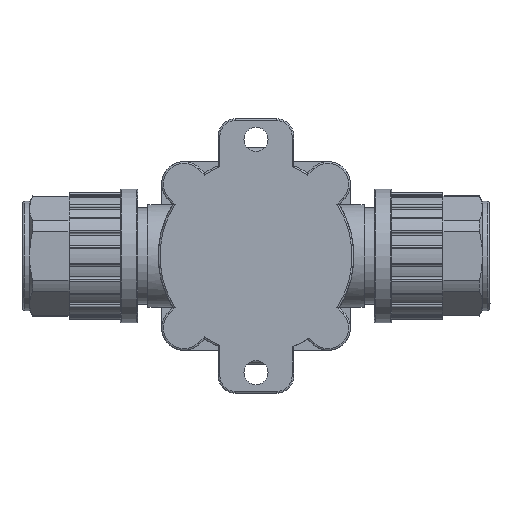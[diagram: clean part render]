
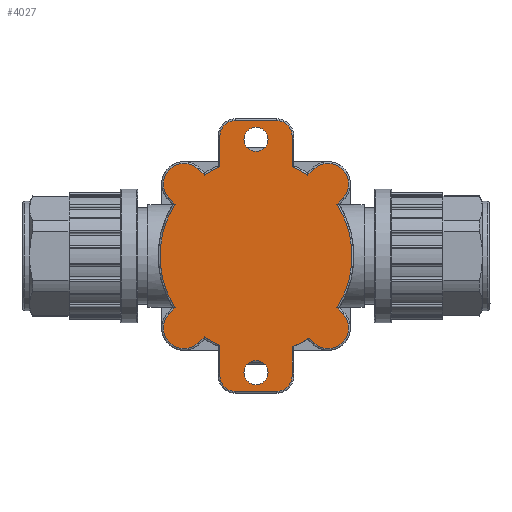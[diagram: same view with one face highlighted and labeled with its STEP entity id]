
A CAD part, front view. The second image highlights one B-rep face of the part: STEP entity #4027.
In plain terms, the highlighted planar face has unit normal (0, -1, 0).
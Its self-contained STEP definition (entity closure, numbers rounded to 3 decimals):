
#642=CIRCLE('',#14246,28.5);
#643=CIRCLE('',#14247,6.);
#644=CIRCLE('',#14248,28.);
#645=CIRCLE('',#14249,6.);
#646=CIRCLE('',#14250,28.);
#647=CIRCLE('',#14251,4.5);
#648=CIRCLE('',#14252,4.5);
#649=CIRCLE('',#14253,28.);
#650=CIRCLE('',#14254,6.);
#651=CIRCLE('',#14255,28.);
#652=CIRCLE('',#14256,6.);
#653=CIRCLE('',#14257,28.);
#654=CIRCLE('',#14258,4.5);
#655=CIRCLE('',#14259,4.5);
#656=CIRCLE('',#14260,3.5);
#657=CIRCLE('',#14261,3.5);
#1016=PLANE('',#14262);
#1420=FACE_BOUND('',#5772,.T.);
#1421=FACE_BOUND('',#5773,.T.);
#1422=FACE_BOUND('',#5774,.T.);
#1879=LINE('',#21078,#2999);
#1880=LINE('',#21082,#3000);
#1881=LINE('',#21086,#3001);
#1882=LINE('',#21090,#3002);
#1883=LINE('',#21094,#3003);
#1884=LINE('',#21098,#3004);
#1885=LINE('',#21102,#3005);
#1886=LINE('',#21106,#3006);
#1887=LINE('',#21110,#3007);
#1888=LINE('',#21114,#3008);
#1889=LINE('',#21118,#3009);
#1890=LINE('',#21122,#3010);
#1891=LINE('',#21126,#3011);
#1892=LINE('',#21130,#3012);
#2999=VECTOR('',#16218,1.);
#3000=VECTOR('',#16221,1.);
#3001=VECTOR('',#16224,1.);
#3002=VECTOR('',#16227,1.);
#3003=VECTOR('',#16230,1.);
#3004=VECTOR('',#16233,1.);
#3005=VECTOR('',#16236,1.);
#3006=VECTOR('',#16239,1.);
#3007=VECTOR('',#16242,1.);
#3008=VECTOR('',#16245,1.);
#3009=VECTOR('',#16248,1.);
#3010=VECTOR('',#16251,1.);
#3011=VECTOR('',#16254,1.);
#3012=VECTOR('',#16257,1.);
#4027=ADVANCED_FACE('',(#1420,#1421,#1422),#1016,.F.);
#5772=EDGE_LOOP('',(#7627,#7628,#7629,#7630,#7631,#7632,#7633,#7634,#7635,
#7636,#7637,#7638,#7639,#7640,#7641,#7642,#7643,#7644,#7645,#7646,#7647,
#7648,#7649,#7650,#7651,#7652,#7653,#7654));
#5773=EDGE_LOOP('',(#7655));
#5774=EDGE_LOOP('',(#7656));
#7627=ORIENTED_EDGE('',*,*,#12157,.F.);
#7628=ORIENTED_EDGE('',*,*,#12158,.T.);
#7629=ORIENTED_EDGE('',*,*,#12159,.T.);
#7630=ORIENTED_EDGE('',*,*,#12160,.T.);
#7631=ORIENTED_EDGE('',*,*,#12161,.T.);
#7632=ORIENTED_EDGE('',*,*,#12162,.T.);
#7633=ORIENTED_EDGE('',*,*,#12163,.T.);
#7634=ORIENTED_EDGE('',*,*,#12164,.T.);
#7635=ORIENTED_EDGE('',*,*,#12165,.T.);
#7636=ORIENTED_EDGE('',*,*,#12166,.T.);
#7637=ORIENTED_EDGE('',*,*,#12167,.T.);
#7638=ORIENTED_EDGE('',*,*,#12168,.T.);
#7639=ORIENTED_EDGE('',*,*,#12169,.T.);
#7640=ORIENTED_EDGE('',*,*,#12170,.T.);
#7641=ORIENTED_EDGE('',*,*,#12171,.T.);
#7642=ORIENTED_EDGE('',*,*,#12172,.T.);
#7643=ORIENTED_EDGE('',*,*,#12173,.T.);
#7644=ORIENTED_EDGE('',*,*,#12174,.T.);
#7645=ORIENTED_EDGE('',*,*,#12175,.T.);
#7646=ORIENTED_EDGE('',*,*,#12176,.T.);
#7647=ORIENTED_EDGE('',*,*,#12177,.T.);
#7648=ORIENTED_EDGE('',*,*,#12178,.T.);
#7649=ORIENTED_EDGE('',*,*,#12179,.T.);
#7650=ORIENTED_EDGE('',*,*,#12180,.T.);
#7651=ORIENTED_EDGE('',*,*,#12181,.T.);
#7652=ORIENTED_EDGE('',*,*,#12182,.T.);
#7653=ORIENTED_EDGE('',*,*,#12183,.T.);
#7654=ORIENTED_EDGE('',*,*,#12184,.T.);
#7655=ORIENTED_EDGE('',*,*,#12185,.T.);
#7656=ORIENTED_EDGE('',*,*,#12186,.T.);
#10652=VERTEX_POINT('',#21076);
#10653=VERTEX_POINT('',#21077);
#10654=VERTEX_POINT('',#21079);
#10655=VERTEX_POINT('',#21081);
#10656=VERTEX_POINT('',#21083);
#10657=VERTEX_POINT('',#21085);
#10658=VERTEX_POINT('',#21087);
#10659=VERTEX_POINT('',#21089);
#10660=VERTEX_POINT('',#21091);
#10661=VERTEX_POINT('',#21093);
#10662=VERTEX_POINT('',#21095);
#10663=VERTEX_POINT('',#21097);
#10664=VERTEX_POINT('',#21099);
#10665=VERTEX_POINT('',#21101);
#10666=VERTEX_POINT('',#21103);
#10667=VERTEX_POINT('',#21105);
#10668=VERTEX_POINT('',#21107);
#10669=VERTEX_POINT('',#21109);
#10670=VERTEX_POINT('',#21111);
#10671=VERTEX_POINT('',#21113);
#10672=VERTEX_POINT('',#21115);
#10673=VERTEX_POINT('',#21117);
#10674=VERTEX_POINT('',#21119);
#10675=VERTEX_POINT('',#21121);
#10676=VERTEX_POINT('',#21123);
#10677=VERTEX_POINT('',#21125);
#10678=VERTEX_POINT('',#21127);
#10679=VERTEX_POINT('',#21129);
#10680=VERTEX_POINT('',#21132);
#10681=VERTEX_POINT('',#21134);
#12157=EDGE_CURVE('',#10652,#10653,#642,.T.);
#12158=EDGE_CURVE('',#10652,#10654,#1879,.T.);
#12159=EDGE_CURVE('',#10654,#10655,#643,.T.);
#12160=EDGE_CURVE('',#10655,#10656,#1880,.T.);
#12161=EDGE_CURVE('',#10656,#10657,#644,.T.);
#12162=EDGE_CURVE('',#10657,#10658,#1881,.T.);
#12163=EDGE_CURVE('',#10658,#10659,#645,.T.);
#12164=EDGE_CURVE('',#10659,#10660,#1882,.T.);
#12165=EDGE_CURVE('',#10660,#10661,#646,.T.);
#12166=EDGE_CURVE('',#10661,#10662,#1883,.T.);
#12167=EDGE_CURVE('',#10662,#10663,#647,.T.);
#12168=EDGE_CURVE('',#10663,#10664,#1884,.T.);
#12169=EDGE_CURVE('',#10664,#10665,#648,.T.);
#12170=EDGE_CURVE('',#10665,#10666,#1885,.T.);
#12171=EDGE_CURVE('',#10666,#10667,#649,.T.);
#12172=EDGE_CURVE('',#10667,#10668,#1886,.T.);
#12173=EDGE_CURVE('',#10668,#10669,#650,.T.);
#12174=EDGE_CURVE('',#10669,#10670,#1887,.T.);
#12175=EDGE_CURVE('',#10670,#10671,#651,.T.);
#12176=EDGE_CURVE('',#10671,#10672,#1888,.T.);
#12177=EDGE_CURVE('',#10672,#10673,#652,.T.);
#12178=EDGE_CURVE('',#10673,#10674,#1889,.T.);
#12179=EDGE_CURVE('',#10674,#10675,#653,.T.);
#12180=EDGE_CURVE('',#10675,#10676,#1890,.T.);
#12181=EDGE_CURVE('',#10676,#10677,#654,.T.);
#12182=EDGE_CURVE('',#10677,#10678,#1891,.T.);
#12183=EDGE_CURVE('',#10678,#10679,#655,.T.);
#12184=EDGE_CURVE('',#10679,#10653,#1892,.T.);
#12185=EDGE_CURVE('',#10680,#10680,#656,.T.);
#12186=EDGE_CURVE('',#10681,#10681,#657,.T.);
#14246=AXIS2_PLACEMENT_3D('',#21075,#16216,#16217);
#14247=AXIS2_PLACEMENT_3D('',#21080,#16219,#16220);
#14248=AXIS2_PLACEMENT_3D('',#21084,#16222,#16223);
#14249=AXIS2_PLACEMENT_3D('',#21088,#16225,#16226);
#14250=AXIS2_PLACEMENT_3D('',#21092,#16228,#16229);
#14251=AXIS2_PLACEMENT_3D('',#21096,#16231,#16232);
#14252=AXIS2_PLACEMENT_3D('',#21100,#16234,#16235);
#14253=AXIS2_PLACEMENT_3D('',#21104,#16237,#16238);
#14254=AXIS2_PLACEMENT_3D('',#21108,#16240,#16241);
#14255=AXIS2_PLACEMENT_3D('',#21112,#16243,#16244);
#14256=AXIS2_PLACEMENT_3D('',#21116,#16246,#16247);
#14257=AXIS2_PLACEMENT_3D('',#21120,#16249,#16250);
#14258=AXIS2_PLACEMENT_3D('',#21124,#16252,#16253);
#14259=AXIS2_PLACEMENT_3D('',#21128,#16255,#16256);
#14260=AXIS2_PLACEMENT_3D('',#21131,#16258,#16259);
#14261=AXIS2_PLACEMENT_3D('',#21133,#16260,#16261);
#14262=AXIS2_PLACEMENT_3D('',#21135,#16262,#16263);
#16216=DIRECTION('',(0.,1.,0.));
#16217=DIRECTION('',(0.,0.,1.));
#16218=DIRECTION('',(0.707,0.,-0.707));
#16219=DIRECTION('',(0.,-1.,0.));
#16220=DIRECTION('',(0.,0.,1.));
#16221=DIRECTION('',(-0.707,0.,0.707));
#16222=DIRECTION('',(0.,-1.,0.));
#16223=DIRECTION('',(0.,0.,1.));
#16224=DIRECTION('',(0.707,0.,0.707));
#16225=DIRECTION('',(0.,-1.,0.));
#16226=DIRECTION('',(0.,0.,1.));
#16227=DIRECTION('',(-0.707,0.,-0.707));
#16228=DIRECTION('',(0.,-1.,0.));
#16229=DIRECTION('',(0.,0.,1.));
#16230=DIRECTION('',(0.,0.,1.));
#16231=DIRECTION('',(0.,-1.,0.));
#16232=DIRECTION('',(0.,0.,1.));
#16233=DIRECTION('',(-1.,0.,0.));
#16234=DIRECTION('',(0.,-1.,0.));
#16235=DIRECTION('',(0.,0.,1.));
#16236=DIRECTION('',(0.,0.,-1.));
#16237=DIRECTION('',(0.,-1.,0.));
#16238=DIRECTION('',(0.,0.,1.));
#16239=DIRECTION('',(-0.707,0.,0.707));
#16240=DIRECTION('',(0.,-1.,0.));
#16241=DIRECTION('',(0.,0.,1.));
#16242=DIRECTION('',(0.707,0.,-0.707));
#16243=DIRECTION('',(0.,-1.,0.));
#16244=DIRECTION('',(0.,0.,1.));
#16245=DIRECTION('',(-0.707,0.,-0.707));
#16246=DIRECTION('',(0.,-1.,0.));
#16247=DIRECTION('',(0.,0.,1.));
#16248=DIRECTION('',(0.707,0.,0.707));
#16249=DIRECTION('',(0.,-1.,0.));
#16250=DIRECTION('',(0.,0.,1.));
#16251=DIRECTION('',(0.,0.,-1.));
#16252=DIRECTION('',(0.,-1.,0.));
#16253=DIRECTION('',(0.,0.,1.));
#16254=DIRECTION('',(1.,0.,0.));
#16255=DIRECTION('',(0.,-1.,0.));
#16256=DIRECTION('',(0.,0.,1.));
#16257=DIRECTION('',(0.,0.,1.));
#16258=DIRECTION('',(0.,1.,0.));
#16259=DIRECTION('',(0.,0.,1.));
#16260=DIRECTION('',(0.,1.,0.));
#16261=DIRECTION('',(0.,0.,-1.));
#16262=DIRECTION('',(0.,1.,0.));
#16263=DIRECTION('',(0.,0.,-1.));
#21075=CARTESIAN_POINT('',(0.,0.,0.));
#21076=CARTESIAN_POINT('',(15.458,0.,-23.944));
#21077=CARTESIAN_POINT('',(10.5,0.,-26.495));
#21078=CARTESIAN_POINT('',(16.757,0.,-25.243));
#21079=CARTESIAN_POINT('',(16.757,0.,-25.243));
#21080=CARTESIAN_POINT('',(21.,0.,-21.));
#21081=CARTESIAN_POINT('',(25.243,0.,-16.757));
#21082=CARTESIAN_POINT('',(23.582,0.,-15.096));
#21083=CARTESIAN_POINT('',(23.582,0.,-15.096));
#21084=CARTESIAN_POINT('',(0.,0.,0.));
#21085=CARTESIAN_POINT('',(23.582,0.,15.096));
#21086=CARTESIAN_POINT('',(25.243,0.,16.757));
#21087=CARTESIAN_POINT('',(25.243,0.,16.757));
#21088=CARTESIAN_POINT('',(21.,0.,21.));
#21089=CARTESIAN_POINT('',(16.757,0.,25.243));
#21090=CARTESIAN_POINT('',(15.096,0.,23.582));
#21091=CARTESIAN_POINT('',(15.096,0.,23.582));
#21092=CARTESIAN_POINT('',(0.,0.,0.));
#21093=CARTESIAN_POINT('',(10.5,0.,25.957));
#21094=CARTESIAN_POINT('',(10.5,0.,35.));
#21095=CARTESIAN_POINT('',(10.5,0.,35.));
#21096=CARTESIAN_POINT('',(6.,0.,35.));
#21097=CARTESIAN_POINT('',(6.,0.,39.5));
#21098=CARTESIAN_POINT('',(-6.,0.,39.5));
#21099=CARTESIAN_POINT('',(-6.,0.,39.5));
#21100=CARTESIAN_POINT('',(-6.,0.,35.));
#21101=CARTESIAN_POINT('',(-10.5,0.,35.));
#21102=CARTESIAN_POINT('',(-10.5,0.,25.957));
#21103=CARTESIAN_POINT('',(-10.5,0.,25.957));
#21104=CARTESIAN_POINT('',(0.,0.,0.));
#21105=CARTESIAN_POINT('',(-15.096,0.,23.582));
#21106=CARTESIAN_POINT('',(-16.757,0.,25.243));
#21107=CARTESIAN_POINT('',(-16.757,0.,25.243));
#21108=CARTESIAN_POINT('',(-21.,0.,21.));
#21109=CARTESIAN_POINT('',(-25.243,0.,16.757));
#21110=CARTESIAN_POINT('',(-23.582,0.,15.096));
#21111=CARTESIAN_POINT('',(-23.582,0.,15.096));
#21112=CARTESIAN_POINT('',(0.,0.,0.));
#21113=CARTESIAN_POINT('',(-23.582,0.,-15.096));
#21114=CARTESIAN_POINT('',(-25.243,0.,-16.757));
#21115=CARTESIAN_POINT('',(-25.243,0.,-16.757));
#21116=CARTESIAN_POINT('',(-21.,0.,-21.));
#21117=CARTESIAN_POINT('',(-16.757,0.,-25.243));
#21118=CARTESIAN_POINT('',(-15.096,0.,-23.582));
#21119=CARTESIAN_POINT('',(-15.096,0.,-23.582));
#21120=CARTESIAN_POINT('',(0.,0.,0.));
#21121=CARTESIAN_POINT('',(-10.5,0.,-25.957));
#21122=CARTESIAN_POINT('',(-10.5,0.,-35.));
#21123=CARTESIAN_POINT('',(-10.5,0.,-35.));
#21124=CARTESIAN_POINT('',(-6.,0.,-35.));
#21125=CARTESIAN_POINT('',(-6.,0.,-39.5));
#21126=CARTESIAN_POINT('',(6.,0.,-39.5));
#21127=CARTESIAN_POINT('',(6.,0.,-39.5));
#21128=CARTESIAN_POINT('',(6.,0.,-35.));
#21129=CARTESIAN_POINT('',(10.5,0.,-35.));
#21130=CARTESIAN_POINT('',(10.5,0.,-26.495));
#21131=CARTESIAN_POINT('',(0.,0.,-34.));
#21132=CARTESIAN_POINT('',(0.,0.,-30.5));
#21133=CARTESIAN_POINT('',(0.,0.,34.));
#21134=CARTESIAN_POINT('',(0.,0.,30.5));
#21135=CARTESIAN_POINT('',(0.,0.,0.));
